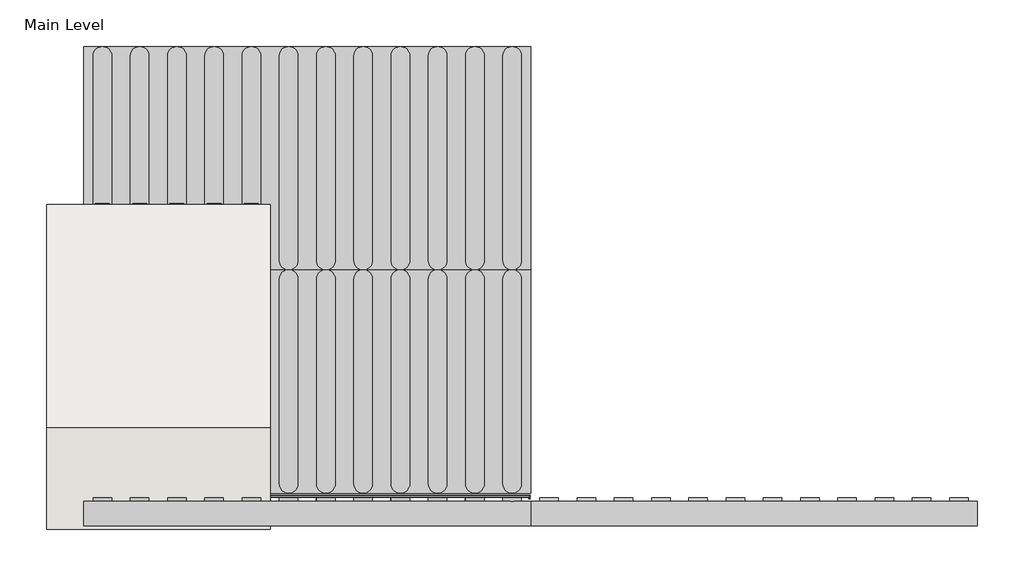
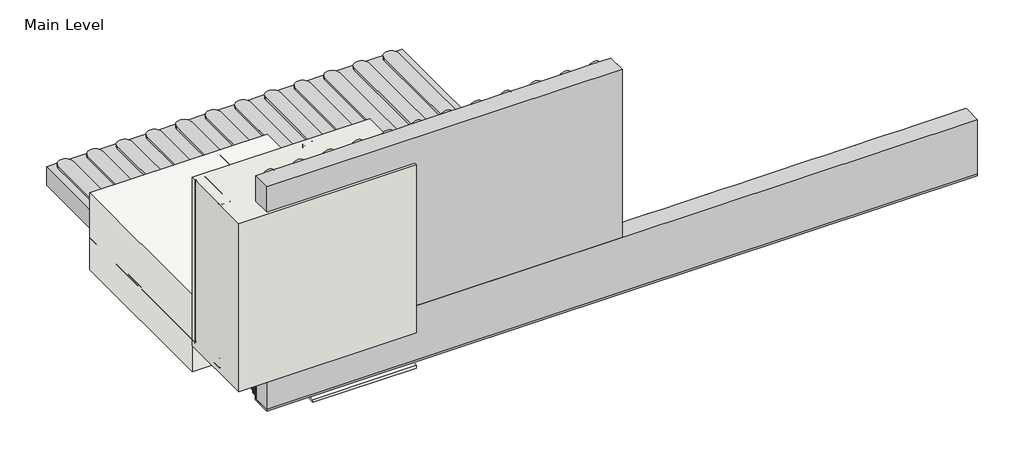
# One storey, incomplete: 21 proxies, 2 coverings, 2 walls.
"""IFC4 building model written with IfcOpenShell, lengths in millimetres."""

from ifc_helpers import new_model, si_unit, frame, origin, origin_with_axes, place, context, project, spatial, polyline, outline, extrude, transform, mapped, element, save
from components import generic_models_cd07b2ce, generic_models_4ec5f286, generic_models_2e656d56, generic_models_47e8b319, generic_models_65503a8f, proxy_50213ae0, proxy_cc65e3d2, proxy_63d6b373, soffit_box_soffit_box_70e22adb, top_adhesive_top_adhesive_8120ce26, wood_blocking_c9818c35, wood_blocking_63bdfc83

model = new_model("IFC4")

# Units and contexts
model_context = context("Model", 3, world=origin())
ifc_project = project(units=[si_unit("LENGTHUNIT", "METRE", prefix="MILLI")], contexts=[model_context])

# Site, building, storey
site = spatial("IfcSite", under=ifc_project)
building = spatial("IfcBuilding", under=site)
storey = spatial("IfcBuildingStorey", under=building, Name="Main Level", Elevation=0.0)

# Proxies
placement = place(None, origin())
generic_models_shape = generic_models_cd07b2ce(model_context)
element("IfcBuildingElementProxy", 1, Name="CRAi Generic Model Metal Stud Array : CRAi Generic Model Metal Stud Array", ObjectType="CRAi Generic Model Metal Stud Array : CRAi Generic Model Metal Stud Array", at=placement, inside=storey, context=model_context, shape_type="MappedRepresentation", body=[
    mapped(generic_models_shape, transform((26692.3726773, 726.0566297, 22.225), x_axis=(-1.0, 0.0, 0.0), y_axis=(0.0, -1.0, 0.0), z_axis=(0.0, 0.0, 1.0))),
])
generic_models_2_shape = generic_models_4ec5f286(model_context)
element("IfcBuildingElementProxy", 2, Name="Durabond Generic Model Insulation Adhesive Flat : Durabond Generic Model Insulation Adhesive Flat", ObjectType="Durabond Generic Model Insulation Adhesive Flat : Durabond Generic Model Insulation Adhesive Flat", at=placement, inside=storey, context=model_context, shape_type="MappedRepresentation", body=[
    mapped(generic_models_2_shape, transform((26641.5726773, 627.6316297, -9.525), x_axis=(1.0, 0.0, 0.0), y_axis=(0.0, 1.0, 0.0), z_axis=(0.0, 0.0, 1.0))),
])
element("IfcBuildingElementProxy", 3, Name="Durabond Generic Model Insulation Adhesive Flat : Durabond Generic Model Insulation Adhesive Flat", ObjectType="Durabond Generic Model Insulation Adhesive Flat : Durabond Generic Model Insulation Adhesive Flat", at=placement, inside=storey, context=model_context, shape_type="MappedRepresentation", body=[
    mapped(generic_models_2_shape, transform((26743.1726773, 627.6316297, -9.525), x_axis=(1.0, 0.0, 0.0), y_axis=(0.0, 1.0, 0.0), z_axis=(0.0, 0.0, 1.0))),
])
element("IfcBuildingElementProxy", 4, Name="Durabond Generic Model Insulation Adhesive Flat : Durabond Generic Model Insulation Adhesive Flat", ObjectType="Durabond Generic Model Insulation Adhesive Flat : Durabond Generic Model Insulation Adhesive Flat", at=placement, inside=storey, context=model_context, shape_type="MappedRepresentation", body=[
    mapped(generic_models_2_shape, transform((26844.7726773, 627.6316297, -9.525), x_axis=(1.0, 0.0, 0.0), y_axis=(0.0, 1.0, 0.0), z_axis=(0.0, 0.0, 1.0))),
])
element("IfcBuildingElementProxy", 5, Name="Durabond Generic Model Insulation Adhesive Flat : Durabond Generic Model Insulation Adhesive Flat", ObjectType="Durabond Generic Model Insulation Adhesive Flat : Durabond Generic Model Insulation Adhesive Flat", at=placement, inside=storey, context=model_context, shape_type="MappedRepresentation", body=[
    mapped(generic_models_2_shape, transform((26946.3726773, 627.6316297, -9.525), x_axis=(1.0, 0.0, 0.0), y_axis=(0.0, 1.0, 0.0), z_axis=(0.0, 0.0, 1.0))),
])
element("IfcBuildingElementProxy", 6, Name="Durabond Generic Model Insulation Adhesive Flat : Durabond Generic Model Insulation Adhesive Flat", ObjectType="Durabond Generic Model Insulation Adhesive Flat : Durabond Generic Model Insulation Adhesive Flat", at=placement, inside=storey, context=model_context, shape_type="MappedRepresentation", body=[
    mapped(generic_models_2_shape, transform((27047.9726773, 627.6316297, -9.525), x_axis=(1.0, 0.0, 0.0), y_axis=(0.0, 1.0, 0.0), z_axis=(0.0, 0.0, 1.0))),
])
generic_models_3_shape = generic_models_2e656d56(model_context)
generic_models_4_shape = generic_models_47e8b319(model_context)
element("IfcBuildingElementProxy", 7, Name="Durabond Generic Soffit Drainage Vent : Durabond Generic Soffit Drainage Vent", ObjectType="Durabond Generic Soffit Drainage Vent : Durabond Generic Soffit Drainage Vent", at=placement, inside=storey, context=model_context, shape_type="MappedRepresentation", body=[
    mapped(generic_models_3_shape, transform((27199.3497774, 626.0441297, -93.6625), x_axis=(1.0, 0.0, 0.0), y_axis=(0.0, 1.0, 0.0), z_axis=(0.0, 0.0, 1.0))),
    mapped(generic_models_4_shape, transform((27199.3497774, 626.0441297, -93.6625), x_axis=(1.0, 0.0, 0.0), y_axis=(0.0, 1.0, 0.0), z_axis=(0.0, 0.0, 1.0))),
])
generic_models_5_shape = generic_models_65503a8f(model_context)
element("IfcBuildingElementProxy", 8, Name="Durabond Generic Model Insulation Adhesive Flat : Durabond Generic Model Insulation Adhesive Flat", ObjectType="Durabond Generic Model Insulation Adhesive Flat : Durabond Generic Model Insulation Adhesive Flat", at=placement, inside=storey, context=model_context, shape_type="MappedRepresentation", body=[
    mapped(generic_models_5_shape, transform((26641.5726773, 637.1566297, -6.35), x_axis=(1.0, 0.0, 0.0), y_axis=(0.0, 0.0, -1.0), z_axis=(0.0, 1.0, 0.0))),
])
element("IfcBuildingElementProxy", 9, Name="Durabond Generic Model Insulation Adhesive Flat : Durabond Generic Model Insulation Adhesive Flat", ObjectType="Durabond Generic Model Insulation Adhesive Flat : Durabond Generic Model Insulation Adhesive Flat", at=placement, inside=storey, context=model_context, shape_type="MappedRepresentation", body=[
    mapped(generic_models_5_shape, transform((26743.1726773, 637.1566297, -6.35), x_axis=(1.0, 0.0, 0.0), y_axis=(0.0, 0.0, -1.0), z_axis=(0.0, 1.0, 0.0))),
])
element("IfcBuildingElementProxy", 10, Name="Durabond Generic Model Insulation Adhesive Flat : Durabond Generic Model Insulation Adhesive Flat", ObjectType="Durabond Generic Model Insulation Adhesive Flat : Durabond Generic Model Insulation Adhesive Flat", at=placement, inside=storey, context=model_context, shape_type="MappedRepresentation", body=[
    mapped(generic_models_5_shape, transform((26844.7726773, 637.1566297, -6.35), x_axis=(1.0, 0.0, 0.0), y_axis=(0.0, 0.0, -1.0), z_axis=(0.0, 1.0, 0.0))),
])
element("IfcBuildingElementProxy", 11, Name="Durabond Generic Model Insulation Adhesive Flat : Durabond Generic Model Insulation Adhesive Flat", ObjectType="Durabond Generic Model Insulation Adhesive Flat : Durabond Generic Model Insulation Adhesive Flat", at=placement, inside=storey, context=model_context, shape_type="MappedRepresentation", body=[
    mapped(generic_models_5_shape, transform((26946.3726773, 637.1566297, -6.35), x_axis=(1.0, 0.0, 0.0), y_axis=(0.0, 0.0, -1.0), z_axis=(0.0, 1.0, 0.0))),
])
element("IfcBuildingElementProxy", 12, Name="Durabond Generic Model Insulation Adhesive Flat : Durabond Generic Model Insulation Adhesive Flat", ObjectType="Durabond Generic Model Insulation Adhesive Flat : Durabond Generic Model Insulation Adhesive Flat", at=placement, inside=storey, context=model_context, shape_type="MappedRepresentation", body=[
    mapped(generic_models_5_shape, transform((27047.9726773, 637.1566297, -6.35), x_axis=(1.0, 0.0, 0.0), y_axis=(0.0, 0.0, -1.0), z_axis=(0.0, 1.0, 0.0))),
])
proxy_shape = proxy_50213ae0(model_context)
element("IfcBuildingElementProxy", 13, Name="Durabond Generic Model Quantum Select 5-0 Insulation Board : 3\"", ObjectType="Durabond Generic Model Quantum Select 5-0 Insulation Board : 3\"", at=placement, inside=storey, context=model_context, shape_type="MappedRepresentation", body=[
    mapped(proxy_shape, transform((27200.3726773, 624.4566297, 396.875), x_axis=(1.0, 0.0, 0.0), y_axis=(0.0, 0.0, 1.0), z_axis=(0.0, -1.0, 0.0))),
])
element("IfcBuildingElementProxy", 14, Name="Durabond Generic Model Quantum Select 5-0 Insulation Board : 3\"", ObjectType="Durabond Generic Model Quantum Select 5-0 Insulation Board : 3\"", at=placement, inside=storey, context=model_context, shape_type="MappedRepresentation", body=[
    mapped(proxy_shape, transform((27200.3726773, 941.9566297, -9.525), x_axis=(-1.0, 0.0, 0.0), y_axis=(0.0, 1.0, 0.0), z_axis=(0.0, 0.0, -1.0))),
])
element("IfcBuildingElementProxy", 15, Name="Durabond Generic Model Quantum Select 5-0 Insulation Board : 3\"", ObjectType="Durabond Generic Model Quantum Select 5-0 Insulation Board : 3\"", at=placement, inside=storey, context=model_context, shape_type="MappedRepresentation", body=[
    mapped(proxy_shape, transform((27200.3726773, 1551.5566297, -9.5089222), x_axis=(-1.0, 0.0, 0.0), y_axis=(0.0, 1.0, 0.0), z_axis=(0.0, 0.0, -1.0))),
])
proxy_2_shape = proxy_cc65e3d2(model_context)
element("IfcBuildingElementProxy", 16, Name="Durabond Generic Model Quantum Select 5-0 Vent Board : 3\"", ObjectType="Durabond Generic Model Quantum Select 5-0 Vent Board : 3\"", at=placement, inside=storey, context=model_context, shape_type="MappedRepresentation", body=[
    mapped(proxy_2_shape, transform((27809.1789273, 624.4566297, -9.525), x_axis=(1.0, 0.0, 0.0), y_axis=(0.0, 0.0, 1.0), z_axis=(0.0, -1.0, 0.0))),
])
proxy_3_shape = proxy_63d6b373(model_context)
element("IfcBuildingElementProxy", 17, Name="Durabond Generic Model Corner 90 Membrane : 4\" Barrier Seam Tape", ObjectType="Durabond Generic Model Corner 90 Membrane : 4\" Barrier Seam Tape", at=placement, inside=storey, context=model_context, shape_type="MappedRepresentation", body=[
    mapped(proxy_3_shape, transform((26514.5726773, 633.9816297, 0.0), x_axis=(0.0, 0.0, -1.0), y_axis=(0.0, 1.0, 0.0), z_axis=(1.0, 0.0, 0.0))),
])
soffit_box_soffit_box_shape = soffit_box_soffit_box_70e22adb(model_context)
element("IfcBuildingElementProxy", 18, Name="Soffit Box : Soffit Box", ObjectType="Soffit Box : Soffit Box", at=placement, inside=storey, context=model_context, shape_type="MappedRepresentation", body=[
    mapped(soffit_box_soffit_box_shape, transform((0.0, 0.0, 0.0), x_axis=(1.0, 0.0, 0.0), y_axis=(0.0, 1.0, 0.0), z_axis=(0.0, 0.0, 1.0))),
])
top_adhesive_top_adhesive_shape = top_adhesive_top_adhesive_8120ce26(model_context)
element("IfcBuildingElementProxy", 19, Name="Top Adhesive : Top Adhesive", ObjectType="Top Adhesive : Top Adhesive", at=placement, inside=storey, context=model_context, shape_type="MappedRepresentation", body=[
    mapped(top_adhesive_top_adhesive_shape, transform((0.0, 0.0, 0.0), x_axis=(1.0, 0.0, 0.0), y_axis=(0.0, 1.0, 0.0), z_axis=(0.0, 0.0, 1.0))),
])
wood_blocking_shape = wood_blocking_c9818c35(model_context)
element("IfcBuildingElementProxy", 20, Name="CRAi Generic Model Line Based Metal Framing Track : Wood Blocking", ObjectType="CRAi Generic Model Line Based Metal Framing Track : Wood Blocking", at=placement, inside=storey, context=model_context, shape_type="MappedRepresentation", body=[
    mapped(wood_blocking_shape, transform((26489.1726773, 649.8566297, 15.875), x_axis=(1.0, 0.0, 0.0), y_axis=(0.0, 1.0, 0.0), z_axis=(0.0, 0.0, 1.0))),
])
wood_blocking_2_shape = wood_blocking_63bdfc83(model_context)
element("IfcBuildingElementProxy", 21, Name="CRAi Generic Model Line Based Metal Framing Track : Wood Blocking", ObjectType="CRAi Generic Model Line Based Metal Framing Track : Wood Blocking", at=placement, inside=storey, context=model_context, shape_type="MappedRepresentation", body=[
    mapped(wood_blocking_2_shape, transform((26491.8622441, 802.2566297, 168.275), x_axis=(1.0, 0.0, 0.0), y_axis=(0.0, 0.0, -1.0), z_axis=(0.0, 1.0, 0.0))),
])

# Coverings
element("IfcCovering", 22, ObjectType="Durabond Detail Ceiling Metal Stud'", at=placement, inside=storey, context=model_context, shape_type="SweptSolid", body=[
    extrude(outline(polyline([(27098.7726773, 814.9566297), (26489.1726773, 814.9566297), (26489.1726773, 1424.5566297), (27098.7726773, 1424.5566297), (27098.7726773, 814.9566297)])), frame((0.0, 0.0, -95.25), z_axis=(0.0, 0.0, 1.0), x_axis=(1.0, 0.0, 0.0)), (0.0, 0.0, 1.0), 279.4),
])
element("IfcCovering", 23, ObjectType="Durabond Stucco Lamina", at=placement, inside=storey, context=model_context, shape_type="SweptSolid", body=[
    extrude(outline(polyline([(538.7316297, -117.7552522), (614.9316297, -111.088616), (614.9316297, -120.65), (538.7316297, -127.3166362), (538.7316297, -117.7552522)])), frame((26743.1726773, 0.0, 0.0), z_axis=(1.0, 0.0, 0.0), x_axis=(0.0, 1.0, 0.0)), (0.0, 0.0, 1.0), 355.6),
])

# Walls
element("IfcWall", 24, ObjectType="189mm (7.5”) EIFS Field Applied on Mtl. Stud Layer - 50mm Grooved Insulation Board Metal Stud Wall", at=placement, inside=storey, context=model_context, shape_type="SweptSolid", body=[
    extrude(outline(polyline([(27098.7726773, 538.7316297), (26489.1726773, 538.7316297), (26489.1726773, 814.9566297), (27098.7726773, 814.9566297), (27098.7726773, 538.7316297)])), origin_with_axes(), (0.0, 0.0, 1.0), 609.6),
])
element("IfcWall", 25, ObjectType="Durabond Stucco System Lamina Back of Soffit", at=placement, inside=storey, context=model_context, shape_type="SweptSolid", body=[
    extrude(outline(polyline([(27098.7726773, 614.9316297), (26743.1726773, 614.9316297), (26743.1726773, 621.2816297), (27098.7726773, 621.2816297), (27098.7726773, 614.9316297)])), frame((0.0, 0.0, -123.7148464), z_axis=(0.0, 0.0, 1.0), x_axis=(1.0, 0.0, 0.0)), (0.0, 0.0, 1.0), 47.5148464),
])

save(model, "model.ifc")
